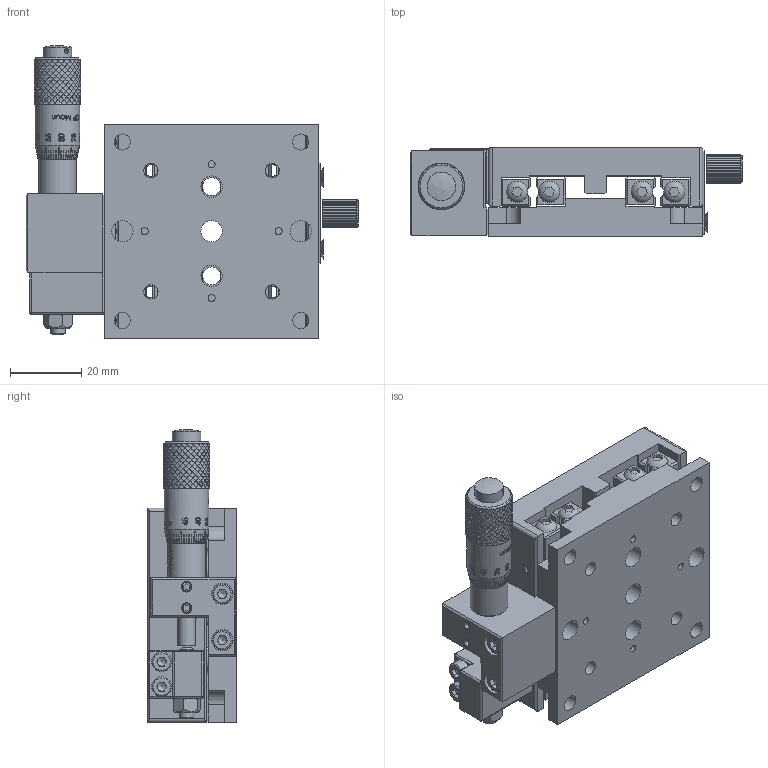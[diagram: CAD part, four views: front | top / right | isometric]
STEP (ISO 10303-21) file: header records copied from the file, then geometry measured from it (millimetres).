
FILE_DESCRIPTION (( 'STEP AP203' ), '1' );
FILE_NAME ('STSS60X-05.STEP', '2017-02-23T08:15:49', ( '¦K¬P' ), ( '' ), 'SwSTEP 2.0', 'SolidWorks 2012', '' );
FILE_SCHEMA (( 'CONFIG_CONTROL_DESIGN' ));
Products named in the file (1): STSS60X-05
Bounding box: 93 x 25 x 81.99 mm (x, y, z)
Surface area: 36296.2 mm2 (no closed solid volume)
Topology: 0 solids, 76 shells, 1922 faces, 6816 edges, 4796 vertices
Faces by surface type: bspline 847, cylinder 584, plane 452, cone 21, sphere 10, torus 8
Full cylindrical faces by diameter (mm): 1.4 x1, 2 x8, 3 x8, 3.3 x10, 4 x5, 4.5 x4, 5 x3, 5.5 x2, 6 x7, 8 x1, 10 x1, 12.5 x1, 16 x1
Entity records: 160863 total; most frequent: CARTESIAN_POINT 117048, ORIENTED_EDGE 11580, EDGE_CURVE 6700, DIRECTION 5178, VERTEX_POINT 4770, B_SPLINE_CURVE_WITH_KNOTS 2351, EDGE_LOOP 2177, FACE_OUTER_BOUND 1967
